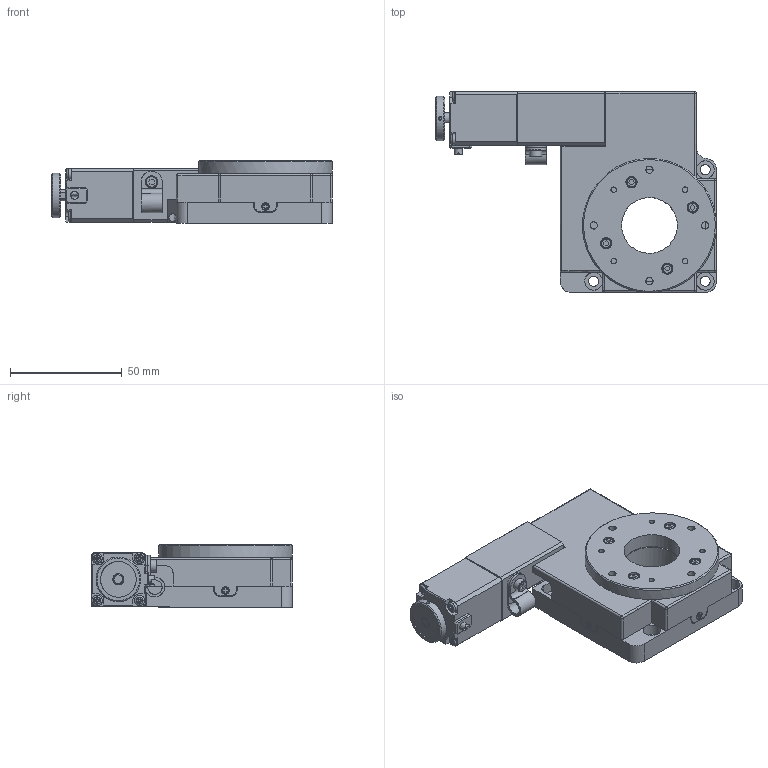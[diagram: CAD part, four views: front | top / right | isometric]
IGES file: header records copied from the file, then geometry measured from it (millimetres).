
Global section: file name: HDS-60YAW; native system: Autodesk Inventor 2014; preprocessor: unknown; author: ma.tanaka; date: 20150105.114049; units: millimetre
Bounding box: 125.8 x 90 x 28 mm (x, y, z)
Volume: 101008.4 mm3; surface area: 58208.4 mm2
Topology: 2 solids, 2 shells, 859 faces, 2251 edges, 1485 vertices
Faces by surface type: bspline 859
